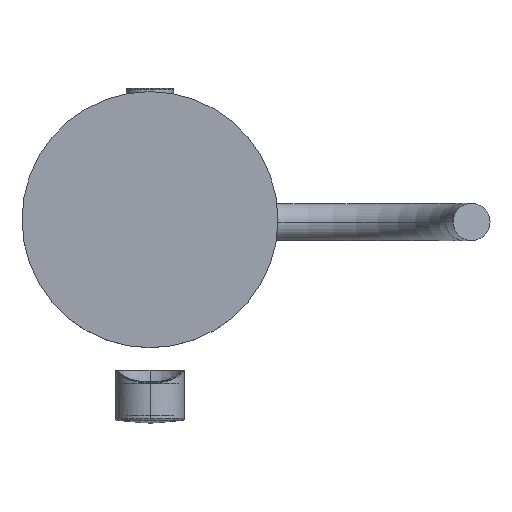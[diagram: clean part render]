
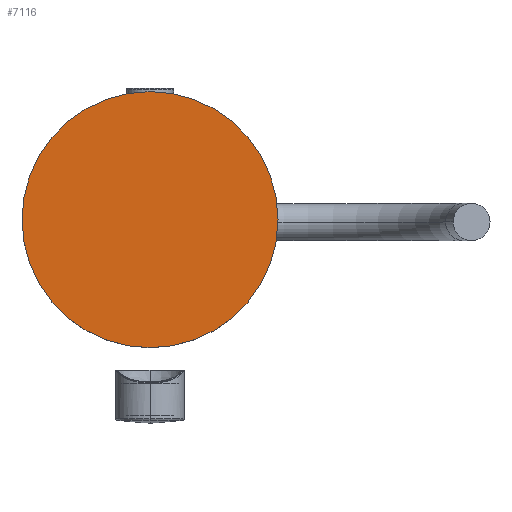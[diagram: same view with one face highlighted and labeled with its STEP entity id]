
A CAD part, top view. The second image highlights one B-rep face of the part: STEP entity #7116.
In plain terms, the highlighted planar face has unit normal (0, 0, 1).
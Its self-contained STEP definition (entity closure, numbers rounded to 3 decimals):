
#7045=CARTESIAN_POINT('',(0.,0.,733.1));
#7046=DIRECTION('',(0.,0.,-1.));
#7047=DIRECTION('',(1.,0.,0.));
#7048=AXIS2_PLACEMENT_3D('',#7045,#7046,#7047);
#7050=CARTESIAN_POINT('',(0.,0.,733.1));
#7051=DIRECTION('',(0.,0.,-1.));
#7052=DIRECTION('',(-1.,0.,0.));
#7053=AXIS2_PLACEMENT_3D('',#7050,#7051,#7052);
#7093=CARTESIAN_POINT('',(89.,0.,733.1));
#7094=CARTESIAN_POINT('',(-89.,0.,733.1));
#7095=VERTEX_POINT('',#7093);
#7096=VERTEX_POINT('',#7094);
#7105=CARTESIAN_POINT('',(0.,0.,733.1));
#7106=DIRECTION('',(0.,0.,-1.));
#7107=DIRECTION('',(1.,0.,0.));
#7108=AXIS2_PLACEMENT_3D('',#7105,#7106,#7107);
#7109=PLANE('',#7108);
#7111=ORIENTED_EDGE('',*,*,#7110,.T.);
#7113=ORIENTED_EDGE('',*,*,#7112,.T.);
#7114=EDGE_LOOP('',(#7111,#7113));
#7115=FACE_OUTER_BOUND('',#7114,.F.);
#7116=ADVANCED_FACE('',(#7115),#7109,.F.);
#7049=CIRCLE('',#7048,89.);
#7054=CIRCLE('',#7053,89.);
#7110=EDGE_CURVE('',#7095,#7096,#7049,.T.);
#7112=EDGE_CURVE('',#7096,#7095,#7054,.T.);
